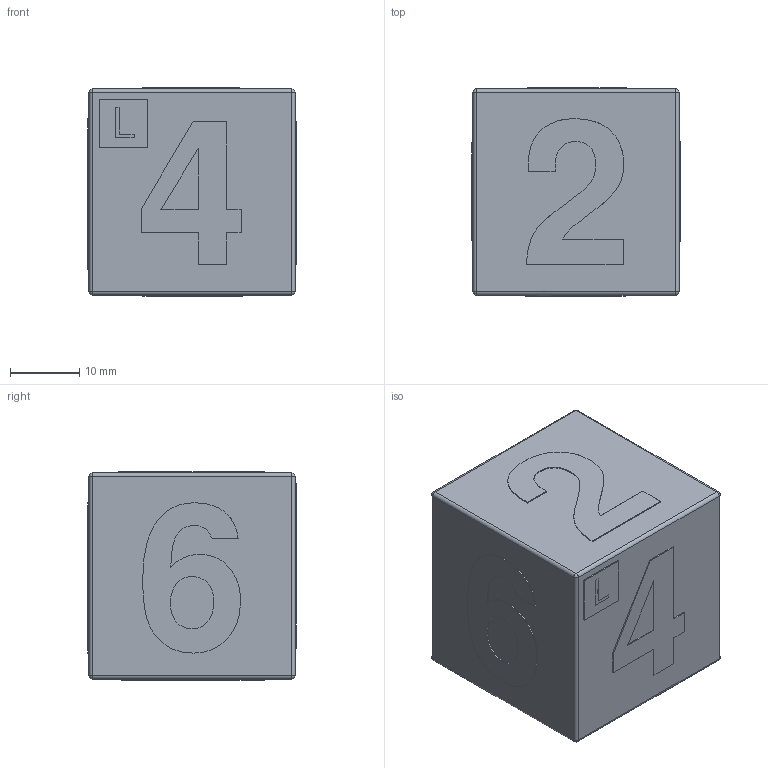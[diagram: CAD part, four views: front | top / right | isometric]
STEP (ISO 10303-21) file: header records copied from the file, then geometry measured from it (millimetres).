
FILE_DESCRIPTION(('Open CASCADE Model'),'2;1');
FILE_NAME('Open CASCADE Shape Model','2025-09-14T20:47:14',('Author'),( 'Open CASCADE'),'Open CASCADE STEP processor 7.8','Open CASCADE 7.8' ,'Unknown');
FILE_SCHEMA(('AUTOMOTIVE_DESIGN { 1 0 10303 214 1 1 1 1 }'));
Length unit declared in the file: millimetre
Products named in the file (20): 9cd55aa2-91a3-11f0-88d2-1c1b0deae66b; 9cd55c5a-91a3-11f0-88d2-1c1b0deae66b; 9cd55c5a-91a3-11f0-88d2-1c1b0deae66b_part; 9cd8e776-91a3-11f0-88d2-1c1b0deae66b; 9cd8e776-91a3-11f0-88d2-1c1b0deae66b_part; 9cda39f0-91a3-11f0-88d2-1c1b0deae66b; 9cda39f0-91a3-11f0-88d2-1c1b0deae66b_part; 9cdc2b20-91a3-11f0-88d2-1c1b0deae66b; 9cdc2b20-91a3-11f0-88d2-1c1b0deae66b_part; 9cde130e-91a3-11f0-88d2-1c1b0deae66b; 9cde130e-91a3-11f0-88d2-1c1b0deae66b_part; 9cdf87de-91a3-11f0-88d2-1c1b0deae66b; 9cdf87de-91a3-11f0-88d2-1c1b0deae66b_part; 9ce0e192-91a3-11f0-88d2-1c1b0deae66b; 9ce0e192-91a3-11f0-88d2-1c1b0deae66b_part; 9ce3ead6-91a3-11f0-88d2-1c1b0deae66b; 9ce3ead6-91a3-11f0-88d2-1c1b0deae66b_part; 9ce3ec52-91a3-11f0-88d2-1c1b0deae66b; 9ce3ec52-91a3-11f0-88d2-1c1b0deae66b_part
Assembly tree (19 placements, depth 4):
  9cd55aa2-91a3-11f0-88d2-1c1b0deae66b
    9cd55aa2-91a3-11f0-88d2-1c1b0deae66b
      9cd55c5a-91a3-11f0-88d2-1c1b0deae66b
        9cd55c5a-91a3-11f0-88d2-1c1b0deae66b_part
      9cd8e776-91a3-11f0-88d2-1c1b0deae66b
        9cd8e776-91a3-11f0-88d2-1c1b0deae66b_part
      9cda39f0-91a3-11f0-88d2-1c1b0deae66b
        9cda39f0-91a3-11f0-88d2-1c1b0deae66b_part
      9cdc2b20-91a3-11f0-88d2-1c1b0deae66b
        9cdc2b20-91a3-11f0-88d2-1c1b0deae66b_part
      9cde130e-91a3-11f0-88d2-1c1b0deae66b
        9cde130e-91a3-11f0-88d2-1c1b0deae66b_part
      9cdf87de-91a3-11f0-88d2-1c1b0deae66b
        9cdf87de-91a3-11f0-88d2-1c1b0deae66b_part
      9ce0e192-91a3-11f0-88d2-1c1b0deae66b
        9ce0e192-91a3-11f0-88d2-1c1b0deae66b_part
      9ce3ead6-91a3-11f0-88d2-1c1b0deae66b
        9ce3ead6-91a3-11f0-88d2-1c1b0deae66b_part
      9ce3ec52-91a3-11f0-88d2-1c1b0deae66b
        9ce3ec52-91a3-11f0-88d2-1c1b0deae66b_part
Bounding box: 30 x 30 x 30 mm (x, y, z)
Volume: 26330.3 mm3; surface area: 7323.2 mm2
Topology: 9 solids, 9 shells, 187 faces, 491 edges, 314 vertices
Faces by surface type: plane 85, extrusion 82, cylinder 12, sphere 8
Entity records: 12415 total; most frequent: CARTESIAN_POINT 2822, DIRECTION 1445, VECTOR 1147, LINE 1065, ORIENTED_EDGE 966, PCURVE 966, DEFINITIONAL_REPRESENTATION 966, EDGE_CURVE 483
